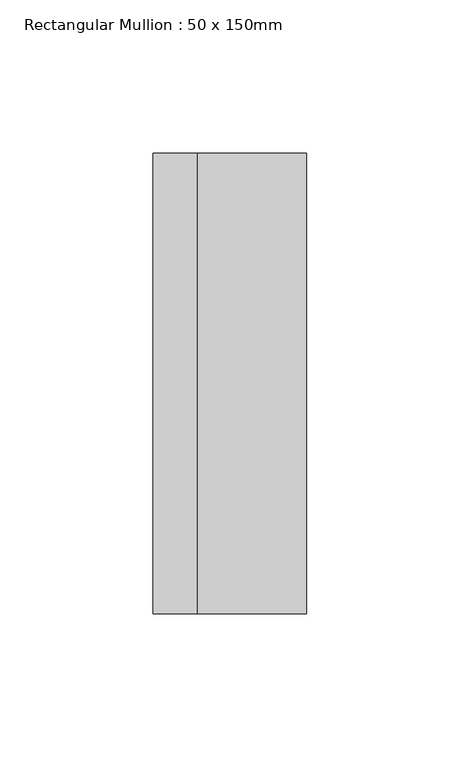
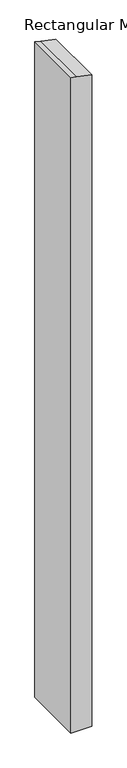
"""IFC4 building model written with IfcOpenShell, lengths in millimetres: member geometry, Rectangular Mullion : 50 x 150mm."""

from ifc_helpers import new_model, si_unit, frame, origin, place, context, project, spatial, polyline, outline, extrude, source, transform, mapped, element, save


def rectangular_mullion_50_x_150mm_9cbb9815(model_context):
    return source(origin(), model_context, "Body", "SweptSolid", [
        extrude(outline(polyline([(-56.7671296, 25.0), (-48.856721, -10.6331549), (-45.7923988, -25.0), (-1713.0386293, -25.0), (-1713.0386293, 25.0), (-56.7671296, 25.0)])), frame((0.0, -75.0, 0.0), z_axis=(0.0, 1.0, 0.0), x_axis=(0.0, 0.0, 1.0)), (0.0, 0.0, 1.0), 150.0),
    ])


if __name__ == "__main__":
    model = new_model("IFC4")
    model_context = context("Model", 3, world=origin())
    ifc_project = project(units=[si_unit("LENGTHUNIT", "METRE", prefix="MILLI")], contexts=[model_context])
    site = spatial("IfcSite", under=ifc_project)
    building = spatial("IfcBuilding", under=site)
    placement = place(None, origin())
    rectangular_mullion_50_x_150mm_shape = rectangular_mullion_50_x_150mm_9cbb9815(model_context)
    element("IfcMember", 1, ObjectType="Rectangular Mullion : 50 x 150mm", at=placement, inside=building, context=model_context, shape_type="MappedRepresentation", body=[
        mapped(rectangular_mullion_50_x_150mm_shape, transform((0.0, 0.0, 0.0), x_axis=(1.0, 0.0, 0.0), y_axis=(0.0, 1.0, 0.0), z_axis=(0.0, 0.0, 1.0))),
    ])
    save(model, "model.ifc")
